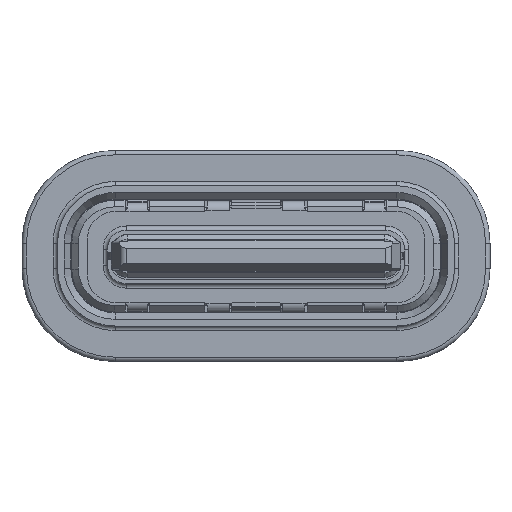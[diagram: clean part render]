
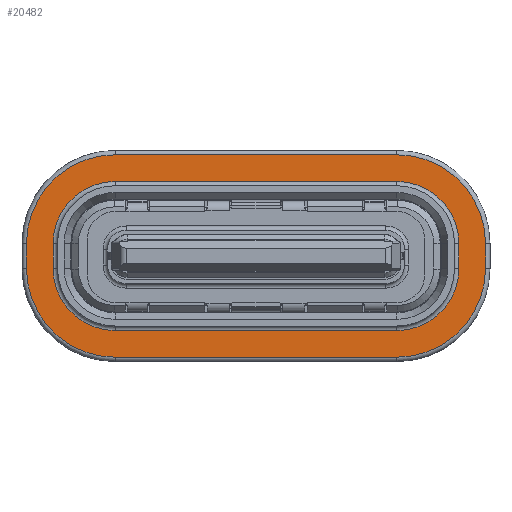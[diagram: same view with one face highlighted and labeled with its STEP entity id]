
A CAD part, top view. The second image highlights one B-rep face of the part: STEP entity #20482.
In plain terms, the highlighted planar face has unit normal (0, 0, 1).
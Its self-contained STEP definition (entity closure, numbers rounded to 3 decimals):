
#4459=DIRECTION('',(0.,-1.,0.));
#4460=VECTOR('',#4459,0.56);
#4461=CARTESIAN_POINT('',(5.17,0.28,2.15));
#4462=LINE('',#4461,#4460);
#4463=CARTESIAN_POINT('',(3.17,-0.28,2.15));
#4464=DIRECTION('',(0.,0.,1.));
#4465=DIRECTION('',(0.,-1.,0.));
#4466=AXIS2_PLACEMENT_3D('',#4463,#4464,#4465);
#4468=DIRECTION('',(-1.,0.,0.));
#4469=VECTOR('',#4468,6.34);
#4470=CARTESIAN_POINT('',(3.17,-2.28,2.15));
#4471=LINE('',#4470,#4469);
#4472=CARTESIAN_POINT('',(-3.17,-0.28,2.15));
#4473=DIRECTION('',(0.,0.,1.));
#4474=DIRECTION('',(-1.,0.,0.));
#4475=AXIS2_PLACEMENT_3D('',#4472,#4473,#4474);
#4477=DIRECTION('',(0.,-1.,0.));
#4478=VECTOR('',#4477,0.56);
#4479=CARTESIAN_POINT('',(-5.17,0.28,2.15));
#4480=LINE('',#4479,#4478);
#4481=CARTESIAN_POINT('',(-3.17,0.28,2.15));
#4482=DIRECTION('',(0.,0.,1.));
#4483=DIRECTION('',(0.,1.,0.));
#4484=AXIS2_PLACEMENT_3D('',#4481,#4482,#4483);
#4486=DIRECTION('',(1.,0.,0.));
#4487=VECTOR('',#4486,6.34);
#4488=CARTESIAN_POINT('',(-3.17,2.28,2.15));
#4489=LINE('',#4488,#4487);
#4490=CARTESIAN_POINT('',(3.17,0.28,2.15));
#4491=DIRECTION('',(0.,0.,1.));
#4492=DIRECTION('',(1.,0.,0.));
#4493=AXIS2_PLACEMENT_3D('',#4490,#4491,#4492);
#4495=DIRECTION('',(0.,1.,0.));
#4496=VECTOR('',#4495,0.56);
#4497=CARTESIAN_POINT('',(4.57,-0.28,2.15));
#4498=LINE('',#4497,#4496);
#4499=CARTESIAN_POINT('',(3.17,0.28,2.15));
#4500=DIRECTION('',(0.,0.,1.));
#4501=DIRECTION('',(1.,0.,0.));
#4502=AXIS2_PLACEMENT_3D('',#4499,#4500,#4501);
#4504=DIRECTION('',(-1.,0.,0.));
#4505=VECTOR('',#4504,6.34);
#4506=CARTESIAN_POINT('',(3.17,1.68,2.15));
#4507=LINE('',#4506,#4505);
#4508=CARTESIAN_POINT('',(-3.17,0.28,2.15));
#4509=DIRECTION('',(0.,0.,1.));
#4510=DIRECTION('',(0.,1.,0.));
#4511=AXIS2_PLACEMENT_3D('',#4508,#4509,#4510);
#4513=DIRECTION('',(0.,-1.,0.));
#4514=VECTOR('',#4513,0.56);
#4515=CARTESIAN_POINT('',(-4.57,0.28,2.15));
#4516=LINE('',#4515,#4514);
#4517=CARTESIAN_POINT('',(-3.17,-0.28,2.15));
#4518=DIRECTION('',(0.,0.,1.));
#4519=DIRECTION('',(-1.,0.,0.));
#4520=AXIS2_PLACEMENT_3D('',#4517,#4518,#4519);
#4522=DIRECTION('',(1.,0.,0.));
#4523=VECTOR('',#4522,6.34);
#4524=CARTESIAN_POINT('',(-3.17,-1.68,2.15));
#4525=LINE('',#4524,#4523);
#4526=CARTESIAN_POINT('',(3.17,-0.28,2.15));
#4527=DIRECTION('',(0.,0.,1.));
#4528=DIRECTION('',(0.,-1.,0.));
#4529=AXIS2_PLACEMENT_3D('',#4526,#4527,#4528);
#14465=CARTESIAN_POINT('',(5.17,0.28,2.15));
#14466=CARTESIAN_POINT('',(5.17,-0.28,2.15));
#14467=VERTEX_POINT('',#14465);
#14468=VERTEX_POINT('',#14466);
#14469=CARTESIAN_POINT('',(3.17,-2.28,2.15));
#14470=CARTESIAN_POINT('',(-3.17,-2.28,2.15));
#14471=VERTEX_POINT('',#14469);
#14472=VERTEX_POINT('',#14470);
#14473=CARTESIAN_POINT('',(-5.17,0.28,2.15));
#14474=CARTESIAN_POINT('',(-5.17,-0.28,2.15));
#14475=VERTEX_POINT('',#14473);
#14476=VERTEX_POINT('',#14474);
#14477=CARTESIAN_POINT('',(-3.17,2.28,2.15));
#14478=CARTESIAN_POINT('',(3.17,2.28,2.15));
#14479=VERTEX_POINT('',#14477);
#14480=VERTEX_POINT('',#14478);
#14481=CARTESIAN_POINT('',(4.57,-0.28,2.15));
#14482=CARTESIAN_POINT('',(4.57,0.28,2.15));
#14483=VERTEX_POINT('',#14481);
#14484=VERTEX_POINT('',#14482);
#14489=CARTESIAN_POINT('',(3.17,1.68,2.15));
#14490=VERTEX_POINT('',#14489);
#14493=CARTESIAN_POINT('',(-3.17,1.68,2.15));
#14494=VERTEX_POINT('',#14493);
#14497=CARTESIAN_POINT('',(-4.57,0.28,2.15));
#14498=VERTEX_POINT('',#14497);
#14501=CARTESIAN_POINT('',(-4.57,-0.28,2.15));
#14502=VERTEX_POINT('',#14501);
#14505=CARTESIAN_POINT('',(-3.17,-1.68,2.15));
#14506=VERTEX_POINT('',#14505);
#14509=CARTESIAN_POINT('',(3.17,-1.68,2.15));
#14510=VERTEX_POINT('',#14509);
#20442=CARTESIAN_POINT('',(0.,0.,2.15));
#20443=DIRECTION('',(0.,0.,-1.));
#20444=DIRECTION('',(-1.,0.,0.));
#20445=AXIS2_PLACEMENT_3D('',#20442,#20443,#20444);
#20446=PLANE('',#20445);
#20448=ORIENTED_EDGE('',*,*,#20447,.T.);
#20450=ORIENTED_EDGE('',*,*,#20449,.F.);
#20452=ORIENTED_EDGE('',*,*,#20451,.T.);
#20454=ORIENTED_EDGE('',*,*,#20453,.F.);
#20456=ORIENTED_EDGE('',*,*,#20455,.F.);
#20458=ORIENTED_EDGE('',*,*,#20457,.F.);
#20460=ORIENTED_EDGE('',*,*,#20459,.T.);
#20462=ORIENTED_EDGE('',*,*,#20461,.F.);
#20463=EDGE_LOOP('',(#20448,#20450,#20452,#20454,#20456,#20458,#20460,#20462));
#20464=FACE_OUTER_BOUND('',#20463,.F.);
#20466=ORIENTED_EDGE('',*,*,#20465,.T.);
#20468=ORIENTED_EDGE('',*,*,#20467,.T.);
#20470=ORIENTED_EDGE('',*,*,#20469,.T.);
#20472=ORIENTED_EDGE('',*,*,#20471,.T.);
#20474=ORIENTED_EDGE('',*,*,#20473,.T.);
#20476=ORIENTED_EDGE('',*,*,#20475,.T.);
#20477=ORIENTED_EDGE('',*,*,#20432,.T.);
#20479=ORIENTED_EDGE('',*,*,#20478,.T.);
#20480=EDGE_LOOP('',(#20466,#20468,#20470,#20472,#20474,#20476,#20477,#20479));
#20481=FACE_BOUND('',#20480,.F.);
#20482=ADVANCED_FACE('',(#20464,#20481),#20446,.F.);
#4467=CIRCLE('',#4466,2.);
#4476=CIRCLE('',#4475,2.);
#4485=CIRCLE('',#4484,2.);
#4494=CIRCLE('',#4493,2.);
#4503=CIRCLE('',#4502,1.4);
#4512=CIRCLE('',#4511,1.4);
#4521=CIRCLE('',#4520,1.4);
#4530=CIRCLE('',#4529,1.4);
#20432=EDGE_CURVE('',#14506,#14510,#4525,.T.);
#20447=EDGE_CURVE('',#14467,#14468,#4462,.T.);
#20449=EDGE_CURVE('',#14471,#14468,#4467,.T.);
#20451=EDGE_CURVE('',#14471,#14472,#4471,.T.);
#20453=EDGE_CURVE('',#14476,#14472,#4476,.T.);
#20455=EDGE_CURVE('',#14475,#14476,#4480,.T.);
#20457=EDGE_CURVE('',#14479,#14475,#4485,.T.);
#20459=EDGE_CURVE('',#14479,#14480,#4489,.T.);
#20461=EDGE_CURVE('',#14467,#14480,#4494,.T.);
#20465=EDGE_CURVE('',#14483,#14484,#4498,.T.);
#20467=EDGE_CURVE('',#14484,#14490,#4503,.T.);
#20469=EDGE_CURVE('',#14490,#14494,#4507,.T.);
#20471=EDGE_CURVE('',#14494,#14498,#4512,.T.);
#20473=EDGE_CURVE('',#14498,#14502,#4516,.T.);
#20475=EDGE_CURVE('',#14502,#14506,#4521,.T.);
#20478=EDGE_CURVE('',#14510,#14483,#4530,.T.);
